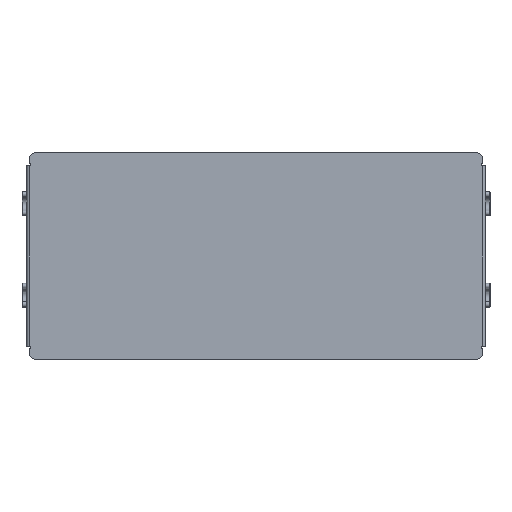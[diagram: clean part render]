
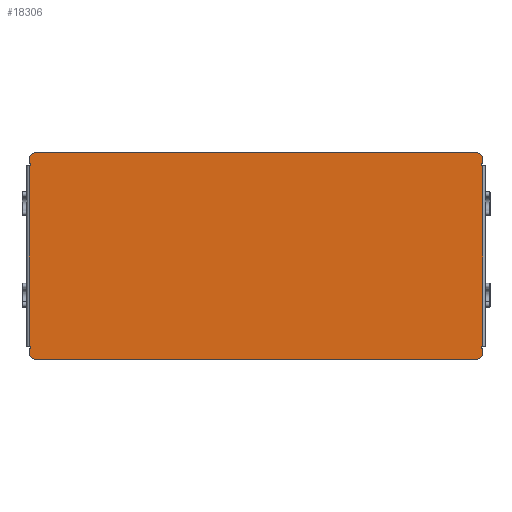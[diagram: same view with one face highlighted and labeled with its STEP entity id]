
A CAD part, top view. The second image highlights one B-rep face of the part: STEP entity #18306.
In plain terms, the highlighted planar face has unit normal (0, 0, 1).
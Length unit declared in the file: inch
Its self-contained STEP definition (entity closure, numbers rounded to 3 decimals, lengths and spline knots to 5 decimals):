
#2354=LINE($,#30779,#4107);
#2355=LINE($,#30783,#4108);
#2356=LINE($,#30785,#4109);
#2357=LINE($,#30787,#4110);
#2358=LINE($,#30789,#4111);
#2359=LINE($,#30791,#4112);
#2360=LINE($,#30793,#4113);
#2361=LINE($,#30795,#4114);
#2362=LINE($,#30797,#4115);
#2363=LINE($,#30799,#4116);
#2364=LINE($,#30803,#4117);
#2365=LINE($,#30807,#4118);
#2366=LINE($,#30809,#4119);
#2367=LINE($,#30811,#4120);
#2368=LINE($,#30813,#4121);
#2369=LINE($,#30815,#4122);
#2370=LINE($,#30817,#4123);
#2371=LINE($,#30819,#4124);
#2372=LINE($,#30821,#4125);
#2373=LINE($,#30822,#4126);
#4107=VECTOR($,#22827,16.84);
#4108=VECTOR($,#22830,0.16);
#4109=VECTOR($,#22831,0.046);
#4110=VECTOR($,#22832,0.09);
#4111=VECTOR($,#22833,0.045);
#4112=VECTOR($,#22834,6.9);
#4113=VECTOR($,#22835,0.045);
#4114=VECTOR($,#22836,0.09);
#4115=VECTOR($,#22837,0.046);
#4116=VECTOR($,#22838,0.16);
#4117=VECTOR($,#22841,16.84);
#4118=VECTOR($,#22844,0.16);
#4119=VECTOR($,#22845,0.046);
#4120=VECTOR($,#22846,0.09);
#4121=VECTOR($,#22847,0.045);
#4122=VECTOR($,#22848,6.9);
#4123=VECTOR($,#22849,0.045);
#4124=VECTOR($,#22850,0.09);
#4125=VECTOR($,#22851,0.046);
#4126=VECTOR($,#22852,0.16);
#4845=PLANE($,#19268);
#5944=FACE_OUTER_BOUND($,#7028,.T.);
#7028=EDGE_LOOP($,(#16017,#16018,#16019,#16020,#16021,#16022,#16023,#16024,
#16025,#16026,#16027,#16028,#16029,#16030,#16031,#16032,#16033,#16034,#16035,
#16036,#16037,#16038,#16039,#16040));
#7317=CIRCLE($,#19267,0.25);
#7318=CIRCLE($,#19269,0.25);
#7319=CIRCLE($,#19270,0.25);
#7320=CIRCLE($,#19271,0.25);
#8907=VERTEX_POINT($,#30772);
#8908=VERTEX_POINT($,#30773);
#8909=VERTEX_POINT($,#30778);
#8910=VERTEX_POINT($,#30780);
#8911=VERTEX_POINT($,#30782);
#8912=VERTEX_POINT($,#30784);
#8913=VERTEX_POINT($,#30786);
#8914=VERTEX_POINT($,#30788);
#8915=VERTEX_POINT($,#30790);
#8916=VERTEX_POINT($,#30792);
#8917=VERTEX_POINT($,#30794);
#8918=VERTEX_POINT($,#30796);
#8919=VERTEX_POINT($,#30798);
#8920=VERTEX_POINT($,#30800);
#8921=VERTEX_POINT($,#30802);
#8922=VERTEX_POINT($,#30804);
#8923=VERTEX_POINT($,#30806);
#8924=VERTEX_POINT($,#30808);
#8925=VERTEX_POINT($,#30810);
#8926=VERTEX_POINT($,#30812);
#8927=VERTEX_POINT($,#30814);
#8928=VERTEX_POINT($,#30816);
#8929=VERTEX_POINT($,#30818);
#8930=VERTEX_POINT($,#30820);
#11310=EDGE_CURVE($,#8907,#8908,#7317,.T.);
#11313=EDGE_CURVE($,#8909,#8907,#2354,.T.);
#11314=EDGE_CURVE($,#8910,#8909,#7318,.T.);
#11315=EDGE_CURVE($,#8911,#8910,#2355,.T.);
#11316=EDGE_CURVE($,#8911,#8912,#2356,.T.);
#11317=EDGE_CURVE($,#8912,#8913,#2357,.T.);
#11318=EDGE_CURVE($,#8913,#8914,#2358,.T.);
#11319=EDGE_CURVE($,#8914,#8915,#2359,.T.);
#11320=EDGE_CURVE($,#8915,#8916,#2360,.T.);
#11321=EDGE_CURVE($,#8916,#8917,#2361,.T.);
#11322=EDGE_CURVE($,#8917,#8918,#2362,.T.);
#11323=EDGE_CURVE($,#8919,#8918,#2363,.T.);
#11324=EDGE_CURVE($,#8920,#8919,#7319,.T.);
#11325=EDGE_CURVE($,#8921,#8920,#2364,.T.);
#11326=EDGE_CURVE($,#8922,#8921,#7320,.T.);
#11327=EDGE_CURVE($,#8923,#8922,#2365,.T.);
#11328=EDGE_CURVE($,#8923,#8924,#2366,.T.);
#11329=EDGE_CURVE($,#8924,#8925,#2367,.T.);
#11330=EDGE_CURVE($,#8925,#8926,#2368,.T.);
#11331=EDGE_CURVE($,#8926,#8927,#2369,.T.);
#11332=EDGE_CURVE($,#8927,#8928,#2370,.T.);
#11333=EDGE_CURVE($,#8928,#8929,#2371,.T.);
#11334=EDGE_CURVE($,#8929,#8930,#2372,.T.);
#11335=EDGE_CURVE($,#8908,#8930,#2373,.T.);
#16017=ORIENTED_EDGE($,*,*,#11310,.F.);
#16018=ORIENTED_EDGE($,*,*,#11313,.F.);
#16019=ORIENTED_EDGE($,*,*,#11314,.F.);
#16020=ORIENTED_EDGE($,*,*,#11315,.F.);
#16021=ORIENTED_EDGE($,*,*,#11316,.T.);
#16022=ORIENTED_EDGE($,*,*,#11317,.T.);
#16023=ORIENTED_EDGE($,*,*,#11318,.T.);
#16024=ORIENTED_EDGE($,*,*,#11319,.T.);
#16025=ORIENTED_EDGE($,*,*,#11320,.T.);
#16026=ORIENTED_EDGE($,*,*,#11321,.T.);
#16027=ORIENTED_EDGE($,*,*,#11322,.T.);
#16028=ORIENTED_EDGE($,*,*,#11323,.F.);
#16029=ORIENTED_EDGE($,*,*,#11324,.F.);
#16030=ORIENTED_EDGE($,*,*,#11325,.F.);
#16031=ORIENTED_EDGE($,*,*,#11326,.F.);
#16032=ORIENTED_EDGE($,*,*,#11327,.F.);
#16033=ORIENTED_EDGE($,*,*,#11328,.T.);
#16034=ORIENTED_EDGE($,*,*,#11329,.T.);
#16035=ORIENTED_EDGE($,*,*,#11330,.T.);
#16036=ORIENTED_EDGE($,*,*,#11331,.T.);
#16037=ORIENTED_EDGE($,*,*,#11332,.T.);
#16038=ORIENTED_EDGE($,*,*,#11333,.T.);
#16039=ORIENTED_EDGE($,*,*,#11334,.T.);
#16040=ORIENTED_EDGE($,*,*,#11335,.F.);
#18306=ADVANCED_FACE($,(#5944),#4845,.T.);
#19267=AXIS2_PLACEMENT_3D($,#30774,#22821,#22822);
#19268=AXIS2_PLACEMENT_3D($,#30777,#22825,#22826);
#19269=AXIS2_PLACEMENT_3D($,#30781,#22828,#22829);
#19270=AXIS2_PLACEMENT_3D($,#30801,#22839,#22840);
#19271=AXIS2_PLACEMENT_3D($,#30805,#22842,#22843);
#22821=DIRECTION('center_axis',(0.,0.,-1.));
#22822=DIRECTION('ref_axis',(-0.707,-0.707,0.));
#22825=DIRECTION('center_axis',(0.,0.,1.));
#22826=DIRECTION('ref_axis',(1.,0.,0.));
#22827=DIRECTION($,(-1.,0.,0.));
#22828=DIRECTION('center_axis',(0.,0.,-1.));
#22829=DIRECTION('ref_axis',(0.707,-0.707,0.));
#22830=DIRECTION($,(0.,-1.,0.));
#22831=DIRECTION($,(-1.,0.,0.));
#22832=DIRECTION($,(0.,1.,0.));
#22833=DIRECTION($,(1.,0.,0.));
#22834=DIRECTION($,(0.,1.,0.));
#22835=DIRECTION($,(-1.,0.,0.));
#22836=DIRECTION($,(0.,1.,0.));
#22837=DIRECTION($,(1.,0.,0.));
#22838=DIRECTION($,(0.,-1.,0.));
#22839=DIRECTION('center_axis',(0.,0.,-1.));
#22840=DIRECTION('ref_axis',(0.707,0.707,0.));
#22841=DIRECTION($,(1.,0.,0.));
#22842=DIRECTION('center_axis',(0.,0.,-1.));
#22843=DIRECTION('ref_axis',(-0.707,0.707,0.));
#22844=DIRECTION($,(0.,1.,0.));
#22845=DIRECTION($,(1.,0.,0.));
#22846=DIRECTION($,(0.,-1.,0.));
#22847=DIRECTION($,(-1.,0.,0.));
#22848=DIRECTION($,(0.,-1.,0.));
#22849=DIRECTION($,(1.,0.,0.));
#22850=DIRECTION($,(0.,-1.,0.));
#22851=DIRECTION($,(-1.,0.,0.));
#22852=DIRECTION($,(0.,1.,0.));
#30772=CARTESIAN_POINT('',(-8.42,0.,0.09));
#30773=CARTESIAN_POINT('',(-8.67,0.25,0.09));
#30774=CARTESIAN_POINT('Origin',(-8.42,0.25,0.09));
#30777=CARTESIAN_POINT('Origin',(0.,3.95,0.09));
#30778=CARTESIAN_POINT('',(8.42,0.,0.09));
#30779=CARTESIAN_POINT($,(8.67,0.,0.09));
#30780=CARTESIAN_POINT('',(8.67,0.25,0.09));
#30781=CARTESIAN_POINT('Origin',(8.42,0.25,0.09));
#30782=CARTESIAN_POINT('',(8.67,0.41,0.09));
#30783=CARTESIAN_POINT($,(8.67,0.5,0.09));
#30784=CARTESIAN_POINT('',(8.624,0.41,0.09));
#30785=CARTESIAN_POINT($,(4.312,0.41,0.09));
#30786=CARTESIAN_POINT('',(8.624,0.5,0.09));
#30787=CARTESIAN_POINT($,(8.624,2.225,0.09));
#30788=CARTESIAN_POINT('',(8.669,0.5,0.09));
#30789=CARTESIAN_POINT($,(4.335,0.5,0.09));
#30790=CARTESIAN_POINT('',(8.669,7.4,0.09));
#30791=CARTESIAN_POINT($,(8.669,2.225,0.09));
#30792=CARTESIAN_POINT('',(8.624,7.4,0.09));
#30793=CARTESIAN_POINT($,(4.312,7.4,0.09));
#30794=CARTESIAN_POINT('',(8.624,7.49,0.09));
#30795=CARTESIAN_POINT($,(8.624,5.72,0.09));
#30796=CARTESIAN_POINT('',(8.67,7.49,0.09));
#30797=CARTESIAN_POINT($,(4.335,7.49,0.09));
#30798=CARTESIAN_POINT('',(8.67,7.65,0.09));
#30799=CARTESIAN_POINT($,(8.67,7.9,0.09));
#30800=CARTESIAN_POINT('',(8.42,7.9,0.09));
#30801=CARTESIAN_POINT('Origin',(8.42,7.65,0.09));
#30802=CARTESIAN_POINT('',(-8.42,7.9,0.09));
#30803=CARTESIAN_POINT($,(-8.67,7.9,0.09));
#30804=CARTESIAN_POINT('',(-8.67,7.65,0.09));
#30805=CARTESIAN_POINT('Origin',(-8.42,7.65,0.09));
#30806=CARTESIAN_POINT('',(-8.67,7.49,0.09));
#30807=CARTESIAN_POINT($,(-8.67,7.4,0.09));
#30808=CARTESIAN_POINT('',(-8.624,7.49,0.09));
#30809=CARTESIAN_POINT($,(-4.312,7.49,0.09));
#30810=CARTESIAN_POINT('',(-8.624,7.4,0.09));
#30811=CARTESIAN_POINT($,(-8.624,5.675,0.09));
#30812=CARTESIAN_POINT('',(-8.669,7.4,0.09));
#30813=CARTESIAN_POINT($,(-4.335,7.4,0.09));
#30814=CARTESIAN_POINT('',(-8.669,0.5,0.09));
#30815=CARTESIAN_POINT($,(-8.669,5.675,0.09));
#30816=CARTESIAN_POINT('',(-8.624,0.5,0.09));
#30817=CARTESIAN_POINT($,(-4.312,0.5,0.09));
#30818=CARTESIAN_POINT('',(-8.624,0.41,0.09));
#30819=CARTESIAN_POINT($,(-8.624,2.18,0.09));
#30820=CARTESIAN_POINT('',(-8.67,0.41,0.09));
#30821=CARTESIAN_POINT($,(-4.335,0.41,0.09));
#30822=CARTESIAN_POINT($,(-8.67,0.,0.09));
